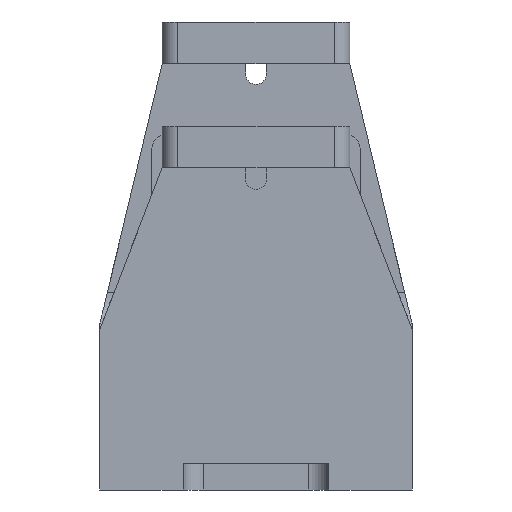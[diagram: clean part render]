
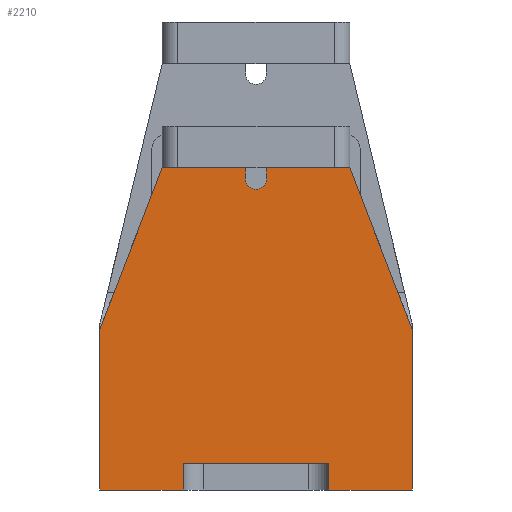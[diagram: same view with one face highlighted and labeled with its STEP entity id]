
A CAD part, left-side view. The second image highlights one B-rep face of the part: STEP entity #2210.
In plain terms, the highlighted planar face has unit normal (-1, 0, 0).
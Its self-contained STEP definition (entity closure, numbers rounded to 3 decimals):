
#72=CIRCLE('',#2402,2.1);
#185=ORIENTED_EDGE('',*,*,#821,.F.);
#186=ORIENTED_EDGE('',*,*,#822,.T.);
#187=ORIENTED_EDGE('',*,*,#816,.F.);
#188=ORIENTED_EDGE('',*,*,#778,.F.);
#189=ORIENTED_EDGE('',*,*,#823,.F.);
#190=ORIENTED_EDGE('',*,*,#824,.F.);
#191=ORIENTED_EDGE('',*,*,#825,.T.);
#192=ORIENTED_EDGE('',*,*,#788,.F.);
#193=ORIENTED_EDGE('',*,*,#826,.F.);
#194=ORIENTED_EDGE('',*,*,#827,.T.);
#195=ORIENTED_EDGE('',*,*,#828,.F.);
#196=ORIENTED_EDGE('',*,*,#829,.F.);
#197=ORIENTED_EDGE('',*,*,#830,.F.);
#198=ORIENTED_EDGE('',*,*,#831,.F.);
#778=EDGE_CURVE('',#1098,#1100,#1317,.T.);
#788=EDGE_CURVE('',#1109,#1110,#1325,.T.);
#816=EDGE_CURVE('',#1100,#1134,#1342,.T.);
#821=EDGE_CURVE('',#1137,#1138,#1345,.T.);
#822=EDGE_CURVE('',#1137,#1134,#1346,.F.);
#823=EDGE_CURVE('',#1139,#1098,#1347,.T.);
#824=EDGE_CURVE('',#1140,#1139,#1348,.T.);
#825=EDGE_CURVE('',#1140,#1110,#1349,.T.);
#826=EDGE_CURVE('',#1141,#1109,#1350,.T.);
#827=EDGE_CURVE('',#1141,#1142,#1351,.F.);
#828=EDGE_CURVE('',#1143,#1142,#1352,.T.);
#829=EDGE_CURVE('',#1144,#1143,#1353,.T.);
#830=EDGE_CURVE('',#1145,#1144,#72,.F.);
#831=EDGE_CURVE('',#1138,#1145,#1354,.T.);
#1098=VERTEX_POINT('',#3239);
#1100=VERTEX_POINT('',#3242);
#1109=VERTEX_POINT('',#3260);
#1110=VERTEX_POINT('',#3262);
#1134=VERTEX_POINT('',#3321);
#1137=VERTEX_POINT('',#3330);
#1138=VERTEX_POINT('',#3331);
#1139=VERTEX_POINT('',#3334);
#1140=VERTEX_POINT('',#3336);
#1141=VERTEX_POINT('',#3339);
#1142=VERTEX_POINT('',#3341);
#1143=VERTEX_POINT('',#3343);
#1144=VERTEX_POINT('',#3345);
#1145=VERTEX_POINT('',#3347);
#1317=LINE('',#3241,#1557);
#1325=LINE('',#3261,#1565);
#1342=LINE('',#3320,#1582);
#1345=LINE('',#3329,#1585);
#1346=LINE('',#3332,#1586);
#1347=LINE('',#3333,#1587);
#1348=LINE('',#3335,#1588);
#1349=LINE('',#3337,#1589);
#1350=LINE('',#3338,#1590);
#1351=LINE('',#3340,#1591);
#1352=LINE('',#3342,#1592);
#1353=LINE('',#3344,#1593);
#1354=LINE('',#3348,#1594);
#1557=VECTOR('',#2591,1000.);
#1565=VECTOR('',#2603,1000.);
#1582=VECTOR('',#2656,1000.);
#1585=VECTOR('',#2665,1000.);
#1586=VECTOR('',#2666,1000.);
#1587=VECTOR('',#2667,1000.);
#1588=VECTOR('',#2668,1000.);
#1589=VECTOR('',#2669,1000.);
#1590=VECTOR('',#2670,1000.);
#1591=VECTOR('',#2671,1000.);
#1592=VECTOR('',#2672,1000.);
#1593=VECTOR('',#2673,1000.);
#1594=VECTOR('',#2676,1000.);
#1806=EDGE_LOOP('',(#185,#186,#187,#188,#189,#190,#191,#192,#193,#194,#195,
#196,#197,#198));
#1966=FACE_BOUND('',#1806,.T.);
#2118=PLANE('',#2401);
#2210=ADVANCED_FACE('',(#1966),#2118,.F.);
#2401=AXIS2_PLACEMENT_3D('',#3328,#2663,#2664);
#2402=AXIS2_PLACEMENT_3D('',#3346,#2674,#2675);
#2591=DIRECTION('',(0.,1.,0.));
#2603=DIRECTION('',(0.,1.,0.));
#2656=DIRECTION('',(0.,0.,1.));
#2663=DIRECTION('',(1.,0.,0.));
#2664=DIRECTION('',(0.,0.,-1.));
#2665=DIRECTION('',(0.,-1.,0.));
#2666=DIRECTION('',(0.,-0.361,0.933));
#2667=DIRECTION('',(0.,0.,-1.));
#2668=DIRECTION('',(0.,1.,0.));
#2669=DIRECTION('',(0.,0.,-1.));
#2670=DIRECTION('',(0.,0.,-1.));
#2671=DIRECTION('',(0.,-0.361,-0.933));
#2672=DIRECTION('',(0.,-1.,0.));
#2673=DIRECTION('',(0.,0.,1.));
#2674=DIRECTION('',(1.,0.,0.));
#2675=DIRECTION('',(0.,0.,-1.));
#2676=DIRECTION('',(0.,0.,-1.));
#3239=CARTESIAN_POINT('',(-35.,14.,-30.));
#3241=CARTESIAN_POINT('',(-35.,-30.,-30.));
#3242=CARTESIAN_POINT('',(-35.,30.,-30.));
#3260=CARTESIAN_POINT('',(-35.,-30.,-30.));
#3261=CARTESIAN_POINT('',(-35.,-30.,-30.));
#3262=CARTESIAN_POINT('',(-35.,-14.,-30.));
#3320=CARTESIAN_POINT('',(-35.,30.,-30.));
#3321=CARTESIAN_POINT('',(-35.,30.,0.861));
#3328=CARTESIAN_POINT('',(-35.,0.,0.));
#3329=CARTESIAN_POINT('',(-35.,30.,31.861));
#3330=CARTESIAN_POINT('',(-35.,18.,31.861));
#3331=CARTESIAN_POINT('',(-35.,2.1,31.861));
#3332=CARTESIAN_POINT('',(-35.,18.,31.861));
#3333=CARTESIAN_POINT('',(-35.,14.,-25.));
#3334=CARTESIAN_POINT('',(-35.,14.,-25.));
#3335=CARTESIAN_POINT('',(-35.,-14.,-25.));
#3336=CARTESIAN_POINT('',(-35.,-14.,-25.));
#3337=CARTESIAN_POINT('',(-35.,-14.,-25.));
#3338=CARTESIAN_POINT('',(-35.,-30.,64.861));
#3339=CARTESIAN_POINT('',(-35.,-30.,0.861));
#3340=CARTESIAN_POINT('',(-35.,-30.,0.861));
#3341=CARTESIAN_POINT('',(-35.,-18.,31.861));
#3342=CARTESIAN_POINT('',(-35.,-2.,31.861));
#3343=CARTESIAN_POINT('',(-35.,-2.1,31.861));
#3344=CARTESIAN_POINT('',(-35.,-2.1,29.861));
#3345=CARTESIAN_POINT('',(-35.,-2.1,29.861));
#3346=CARTESIAN_POINT('',(-35.,0.,29.861));
#3347=CARTESIAN_POINT('',(-35.,2.1,29.861));
#3348=CARTESIAN_POINT('',(-35.,2.1,49.861));
